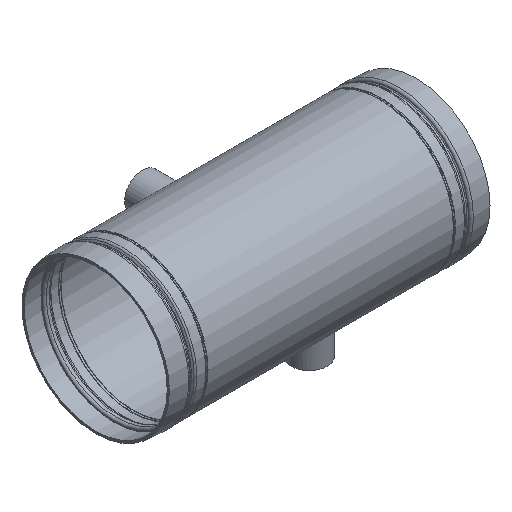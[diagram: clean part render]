
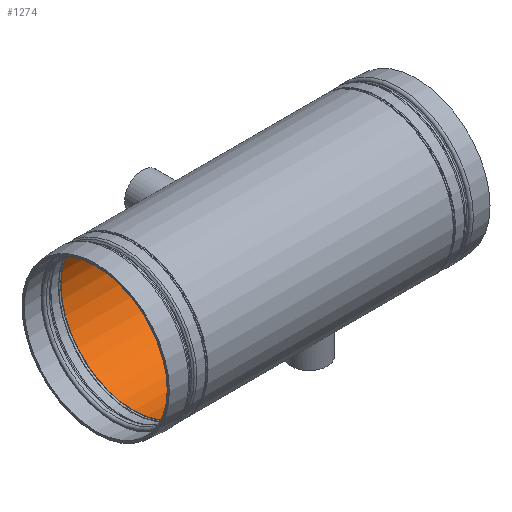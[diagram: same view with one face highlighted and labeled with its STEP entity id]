
A CAD part, isometric view. The second image highlights one B-rep face of the part: STEP entity #1274.
In plain terms, the highlighted cylindrical face has radius 67.818 mm (diameter 135.636 mm), a full revolution.
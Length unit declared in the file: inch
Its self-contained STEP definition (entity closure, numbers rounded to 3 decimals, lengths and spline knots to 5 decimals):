
#81=FACE_BOUND('',#171,.T.);
#82=FACE_BOUND('',#172,.T.);
#108=FACE_OUTER_BOUND('',#170,.T.);
#170=EDGE_LOOP('',(#817,#818,#819,#820,#821,#822,#823,#824));
#171=EDGE_LOOP('',(#825,#826));
#172=EDGE_LOOP('',(#827,#828));
#237=B_SPLINE_CURVE_WITH_KNOTS('',3,(#2093,#2094,#2095,#2096,#2097,#2098,
#2099,#2100,#2101,#2102),.UNSPECIFIED.,.F.,.F.,(4,2,2,2,4),(0.,0.40257,
0.80515,1.20771,1.61027),.UNSPECIFIED.);
#238=B_SPLINE_CURVE_WITH_KNOTS('',3,(#2103,#2104,#2105,#2106,#2107,#2108,
#2109,#2110,#2111,#2112,#2113,#2114,#2115,#2116,#2117,#2118,#2119,#2120,
#2121,#2122,#2123,#2124,#2125,#2126,#2127,#2128),.UNSPECIFIED.,.F.,.F.,
(4,2,2,2,2,2,2,2,2,2,2,2,4),(1.61027,2.01284,2.4154,
2.81798,3.22055,3.62312,4.02569,4.42826,
4.83082,5.23339,5.63595,6.03852,6.4411),
 .UNSPECIFIED.);
#241=B_SPLINE_CURVE_WITH_KNOTS('',3,(#2227,#2228,#2229,#2230,#2231,#2232,
#2233,#2234,#2235,#2236,#2237,#2238,#2239,#2240,#2241,#2242,#2243,#2244,
#2245,#2246,#2247,#2248,#2249,#2250,#2251,#2252),.UNSPECIFIED.,.F.,.F.,
(4,2,2,2,2,2,2,2,2,2,2,2,4),(0.,0.40257,0.80515,1.20771,
1.61027,2.01284,2.4154,2.81798,3.22055,
3.62312,4.02569,4.42826,4.83082),
 .UNSPECIFIED.);
#242=B_SPLINE_CURVE_WITH_KNOTS('',3,(#2253,#2254,#2255,#2256,#2257,#2258,
#2259,#2260,#2261,#2262),.UNSPECIFIED.,.F.,.F.,(4,2,2,2,4),(4.83082,
5.23339,5.63595,6.03852,6.4411),
 .UNSPECIFIED.);
#248=LINE('',#2218,#272);
#272=VECTOR('',#1615,2.67);
#297=CIRCLE('',#1359,2.67);
#298=CIRCLE('',#1360,2.67);
#299=CIRCLE('',#1361,2.67);
#300=CIRCLE('',#1362,2.67);
#301=CIRCLE('',#1363,2.67);
#302=CIRCLE('',#1364,2.67);
#458=VERTEX_POINT('',#2090);
#459=VERTEX_POINT('',#2092);
#465=VERTEX_POINT('',#2212);
#466=VERTEX_POINT('',#2213);
#467=VERTEX_POINT('',#2215);
#468=VERTEX_POINT('',#2217);
#469=VERTEX_POINT('',#2219);
#470=VERTEX_POINT('',#2221);
#471=VERTEX_POINT('',#2225);
#472=VERTEX_POINT('',#2226);
#605=EDGE_CURVE('',#459,#458,#237,.T.);
#606=EDGE_CURVE('',#458,#459,#238,.T.);
#614=EDGE_CURVE('',#465,#466,#297,.T.);
#615=EDGE_CURVE('',#466,#467,#298,.T.);
#616=EDGE_CURVE('',#467,#468,#248,.T.);
#617=EDGE_CURVE('',#469,#468,#299,.T.);
#618=EDGE_CURVE('',#470,#469,#300,.T.);
#619=EDGE_CURVE('',#468,#470,#301,.T.);
#620=EDGE_CURVE('',#467,#465,#302,.T.);
#621=EDGE_CURVE('',#471,#472,#241,.T.);
#622=EDGE_CURVE('',#472,#471,#242,.T.);
#817=ORIENTED_EDGE('',*,*,#614,.T.);
#818=ORIENTED_EDGE('',*,*,#615,.T.);
#819=ORIENTED_EDGE('',*,*,#616,.T.);
#820=ORIENTED_EDGE('',*,*,#617,.F.);
#821=ORIENTED_EDGE('',*,*,#618,.F.);
#822=ORIENTED_EDGE('',*,*,#619,.F.);
#823=ORIENTED_EDGE('',*,*,#616,.F.);
#824=ORIENTED_EDGE('',*,*,#620,.T.);
#825=ORIENTED_EDGE('',*,*,#605,.T.);
#826=ORIENTED_EDGE('',*,*,#606,.T.);
#827=ORIENTED_EDGE('',*,*,#621,.T.);
#828=ORIENTED_EDGE('',*,*,#622,.T.);
#1194=CYLINDRICAL_SURFACE('',#1358,2.67);
#1274=ADVANCED_FACE('',(#108,#81,#82),#1194,.F.);
#1358=AXIS2_PLACEMENT_3D('',#2211,#1609,#1610);
#1359=AXIS2_PLACEMENT_3D('',#2214,#1611,#1612);
#1360=AXIS2_PLACEMENT_3D('',#2216,#1613,#1614);
#1361=AXIS2_PLACEMENT_3D('',#2220,#1616,#1617);
#1362=AXIS2_PLACEMENT_3D('',#2222,#1618,#1619);
#1363=AXIS2_PLACEMENT_3D('',#2223,#1620,#1621);
#1364=AXIS2_PLACEMENT_3D('',#2224,#1622,#1623);
#1609=DIRECTION('center_axis',(1.,0.,0.));
#1610=DIRECTION('ref_axis',(0.,1.,0.));
#1611=DIRECTION('center_axis',(1.,0.,0.));
#1612=DIRECTION('ref_axis',(0.,0.,-1.));
#1613=DIRECTION('center_axis',(1.,0.,0.));
#1614=DIRECTION('ref_axis',(0.,0.,-1.));
#1615=DIRECTION('',(-1.,0.,0.));
#1616=DIRECTION('center_axis',(1.,0.,0.));
#1617=DIRECTION('ref_axis',(0.,0.,-1.));
#1618=DIRECTION('center_axis',(1.,0.,0.));
#1619=DIRECTION('ref_axis',(0.,0.,-1.));
#1620=DIRECTION('center_axis',(1.,0.,0.));
#1621=DIRECTION('ref_axis',(0.,0.,-1.));
#1622=DIRECTION('center_axis',(1.,0.,0.));
#1623=DIRECTION('ref_axis',(0.,0.,-1.));
#2090=CARTESIAN_POINT('',(1.54,0.,-2.67));
#2092=CARTESIAN_POINT('',(1.96,-0.42,-2.63676));
#2093=CARTESIAN_POINT('Ctrl Pts',(1.96,-0.42,-2.63676));
#2094=CARTESIAN_POINT('Ctrl Pts',(1.90717,-0.42,-2.63676));
#2095=CARTESIAN_POINT('Ctrl Pts',(1.85088,-0.40942,-2.63851));
#2096=CARTESIAN_POINT('Ctrl Pts',(1.74742,-0.36653,-2.64481));
#2097=CARTESIAN_POINT('Ctrl Pts',(1.70026,-0.33423,-2.64926));
#2098=CARTESIAN_POINT('Ctrl Pts',(1.62578,-0.25974,-2.6576));
#2099=CARTESIAN_POINT('Ctrl Pts',(1.59347,-0.21258,-2.66203));
#2100=CARTESIAN_POINT('Ctrl Pts',(1.55058,-0.10912,-2.66827));
#2101=CARTESIAN_POINT('Ctrl Pts',(1.54,-0.05283,-2.67));
#2102=CARTESIAN_POINT('Ctrl Pts',(1.54,0.,-2.67));
#2103=CARTESIAN_POINT('Ctrl Pts',(1.54,0.,-2.67));
#2104=CARTESIAN_POINT('Ctrl Pts',(1.54,0.05283,-2.67));
#2105=CARTESIAN_POINT('Ctrl Pts',(1.55058,0.10912,-2.66827));
#2106=CARTESIAN_POINT('Ctrl Pts',(1.59347,0.21258,-2.66203));
#2107=CARTESIAN_POINT('Ctrl Pts',(1.62578,0.25974,-2.6576));
#2108=CARTESIAN_POINT('Ctrl Pts',(1.70026,0.33423,-2.64926));
#2109=CARTESIAN_POINT('Ctrl Pts',(1.74742,0.36653,-2.64481));
#2110=CARTESIAN_POINT('Ctrl Pts',(1.85088,0.40942,-2.63851));
#2111=CARTESIAN_POINT('Ctrl Pts',(1.90717,0.42,-2.63676));
#2112=CARTESIAN_POINT('Ctrl Pts',(2.01283,0.42,-2.63676));
#2113=CARTESIAN_POINT('Ctrl Pts',(2.06912,0.40942,-2.63851));
#2114=CARTESIAN_POINT('Ctrl Pts',(2.17258,0.36653,-2.64481));
#2115=CARTESIAN_POINT('Ctrl Pts',(2.21974,0.33423,-2.64926));
#2116=CARTESIAN_POINT('Ctrl Pts',(2.29422,0.25974,-2.6576));
#2117=CARTESIAN_POINT('Ctrl Pts',(2.32653,0.21258,-2.66203));
#2118=CARTESIAN_POINT('Ctrl Pts',(2.36942,0.10912,-2.66827));
#2119=CARTESIAN_POINT('Ctrl Pts',(2.38,0.05283,-2.67));
#2120=CARTESIAN_POINT('Ctrl Pts',(2.38,-0.05283,-2.67));
#2121=CARTESIAN_POINT('Ctrl Pts',(2.36942,-0.10912,-2.66827));
#2122=CARTESIAN_POINT('Ctrl Pts',(2.32653,-0.21258,-2.66203));
#2123=CARTESIAN_POINT('Ctrl Pts',(2.29422,-0.25974,-2.6576));
#2124=CARTESIAN_POINT('Ctrl Pts',(2.21974,-0.33423,-2.64926));
#2125=CARTESIAN_POINT('Ctrl Pts',(2.17258,-0.36653,-2.64481));
#2126=CARTESIAN_POINT('Ctrl Pts',(2.06912,-0.40942,-2.63851));
#2127=CARTESIAN_POINT('Ctrl Pts',(2.01283,-0.42,-2.63676));
#2128=CARTESIAN_POINT('Ctrl Pts',(1.96,-0.42,-2.63676));
#2211=CARTESIAN_POINT('Origin',(-2.25363,0.,
0.));
#2212=CARTESIAN_POINT('',(4.50727,2.67,0.));
#2213=CARTESIAN_POINT('',(4.50727,0.,2.67));
#2214=CARTESIAN_POINT('Origin',(4.50727,0.,0.));
#2215=CARTESIAN_POINT('',(4.50727,-2.67,0.));
#2216=CARTESIAN_POINT('Origin',(4.50727,0.,0.));
#2217=CARTESIAN_POINT('',(-4.50727,-2.67,0.));
#2218=CARTESIAN_POINT('',(-2.25363,-2.67,0.));
#2219=CARTESIAN_POINT('',(-4.50727,0.,2.67));
#2220=CARTESIAN_POINT('Origin',(-4.50727,0.,
0.));
#2221=CARTESIAN_POINT('',(-4.50727,2.67,0.));
#2222=CARTESIAN_POINT('Origin',(-4.50727,0.,
0.));
#2223=CARTESIAN_POINT('Origin',(-4.50727,0.,
0.));
#2224=CARTESIAN_POINT('Origin',(4.50727,0.,0.));
#2225=CARTESIAN_POINT('',(-0.01,2.63676,-0.42));
#2226=CARTESIAN_POINT('',(0.41,2.67,0.));
#2227=CARTESIAN_POINT('Ctrl Pts',(-0.01,2.63676,
-0.42));
#2228=CARTESIAN_POINT('Ctrl Pts',(-0.06283,2.63676,
-0.42));
#2229=CARTESIAN_POINT('Ctrl Pts',(-0.11912,2.63851,-0.40942));
#2230=CARTESIAN_POINT('Ctrl Pts',(-0.22258,2.64481,-0.36653));
#2231=CARTESIAN_POINT('Ctrl Pts',(-0.26974,2.64926,-0.33423));
#2232=CARTESIAN_POINT('Ctrl Pts',(-0.34422,2.6576,-0.25974));
#2233=CARTESIAN_POINT('Ctrl Pts',(-0.37653,2.66203,-0.21258));
#2234=CARTESIAN_POINT('Ctrl Pts',(-0.41942,2.66827,-0.10912));
#2235=CARTESIAN_POINT('Ctrl Pts',(-0.43,2.67,-0.05283));
#2236=CARTESIAN_POINT('Ctrl Pts',(-0.43,2.67,0.05283));
#2237=CARTESIAN_POINT('Ctrl Pts',(-0.41942,2.66827,0.10912));
#2238=CARTESIAN_POINT('Ctrl Pts',(-0.37653,2.66203,0.21258));
#2239=CARTESIAN_POINT('Ctrl Pts',(-0.34422,2.6576,0.25974));
#2240=CARTESIAN_POINT('Ctrl Pts',(-0.26974,2.64926,0.33423));
#2241=CARTESIAN_POINT('Ctrl Pts',(-0.22258,2.64481,0.36653));
#2242=CARTESIAN_POINT('Ctrl Pts',(-0.11912,2.63851,0.40942));
#2243=CARTESIAN_POINT('Ctrl Pts',(-0.06283,2.63676,
0.42));
#2244=CARTESIAN_POINT('Ctrl Pts',(0.04283,2.63676,0.42));
#2245=CARTESIAN_POINT('Ctrl Pts',(0.09912,2.63851,0.40942));
#2246=CARTESIAN_POINT('Ctrl Pts',(0.20258,2.64481,0.36653));
#2247=CARTESIAN_POINT('Ctrl Pts',(0.24974,2.64926,0.33423));
#2248=CARTESIAN_POINT('Ctrl Pts',(0.32422,2.6576,0.25974));
#2249=CARTESIAN_POINT('Ctrl Pts',(0.35653,2.66203,0.21258));
#2250=CARTESIAN_POINT('Ctrl Pts',(0.39942,2.66827,0.10912));
#2251=CARTESIAN_POINT('Ctrl Pts',(0.41,2.67,0.05283));
#2252=CARTESIAN_POINT('Ctrl Pts',(0.41,2.67,0.));
#2253=CARTESIAN_POINT('Ctrl Pts',(0.41,2.67,0.));
#2254=CARTESIAN_POINT('Ctrl Pts',(0.41,2.67,-0.05283));
#2255=CARTESIAN_POINT('Ctrl Pts',(0.39942,2.66827,-0.10912));
#2256=CARTESIAN_POINT('Ctrl Pts',(0.35653,2.66203,-0.21258));
#2257=CARTESIAN_POINT('Ctrl Pts',(0.32422,2.6576,-0.25974));
#2258=CARTESIAN_POINT('Ctrl Pts',(0.24974,2.64926,-0.33423));
#2259=CARTESIAN_POINT('Ctrl Pts',(0.20258,2.64481,-0.36653));
#2260=CARTESIAN_POINT('Ctrl Pts',(0.09912,2.63851,-0.40942));
#2261=CARTESIAN_POINT('Ctrl Pts',(0.04283,2.63676,-0.42));
#2262=CARTESIAN_POINT('Ctrl Pts',(-0.01,2.63676,
-0.42));
